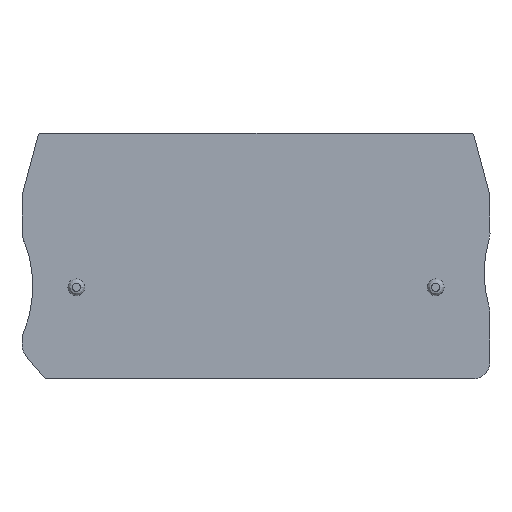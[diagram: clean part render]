
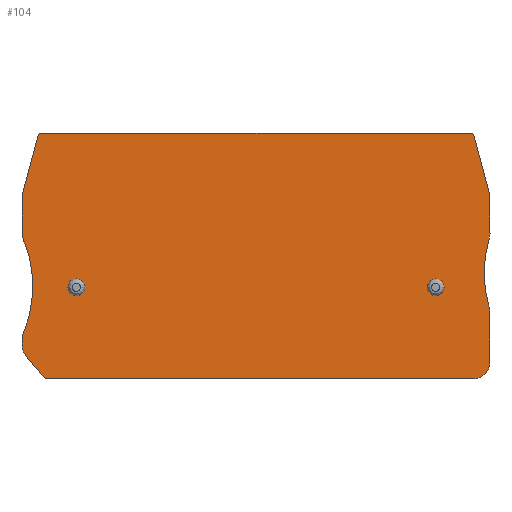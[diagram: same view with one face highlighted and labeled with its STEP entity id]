
A CAD part, top view. The second image highlights one B-rep face of the part: STEP entity #104.
In plain terms, the highlighted planar face has unit normal (0, 0, 1).
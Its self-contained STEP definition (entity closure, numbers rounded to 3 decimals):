
#36=FACE_BOUND('',#166,.T.);
#37=FACE_BOUND('',#167,.T.);
#38=FACE_BOUND('',#168,.T.);
#60=CIRCLE('',#490,0.5);
#62=CIRCLE('',#495,2.);
#64=CIRCLE('',#498,14.5);
#66=CIRCLE('',#501,2.);
#68=CIRCLE('',#505,2.);
#70=CIRCLE('',#510,2.);
#72=CIRCLE('',#514,2.);
#74=CIRCLE('',#517,14.5);
#76=CIRCLE('',#520,2.);
#78=CIRCLE('',#525,0.5);
#79=CIRCLE('',#527,1.);
#80=CIRCLE('',#528,1.);
#104=ADVANCED_FACE('',(#36,#37,#38),#121,.T.);
#121=PLANE('',#529);
#166=EDGE_LOOP('',(#256,#257,#258,#259,#260,#261,#262,#263,#264,#265,#266,
#267,#268,#269,#270,#271,#272,#273,#274));
#167=EDGE_LOOP('',(#275));
#168=EDGE_LOOP('',(#276));
#256=ORIENTED_EDGE('',*,*,#352,.T.);
#257=ORIENTED_EDGE('',*,*,#356,.T.);
#258=ORIENTED_EDGE('',*,*,#359,.T.);
#259=ORIENTED_EDGE('',*,*,#362,.T.);
#260=ORIENTED_EDGE('',*,*,#365,.T.);
#261=ORIENTED_EDGE('',*,*,#368,.T.);
#262=ORIENTED_EDGE('',*,*,#371,.T.);
#263=ORIENTED_EDGE('',*,*,#374,.T.);
#264=ORIENTED_EDGE('',*,*,#377,.T.);
#265=ORIENTED_EDGE('',*,*,#380,.T.);
#266=ORIENTED_EDGE('',*,*,#383,.T.);
#267=ORIENTED_EDGE('',*,*,#386,.T.);
#268=ORIENTED_EDGE('',*,*,#389,.T.);
#269=ORIENTED_EDGE('',*,*,#392,.T.);
#270=ORIENTED_EDGE('',*,*,#395,.T.);
#271=ORIENTED_EDGE('',*,*,#398,.T.);
#272=ORIENTED_EDGE('',*,*,#401,.T.);
#273=ORIENTED_EDGE('',*,*,#404,.T.);
#274=ORIENTED_EDGE('',*,*,#406,.T.);
#275=ORIENTED_EDGE('',*,*,#407,.F.);
#276=ORIENTED_EDGE('',*,*,#408,.F.);
#308=VERTEX_POINT('',#685);
#309=VERTEX_POINT('',#687);
#311=VERTEX_POINT('',#693);
#313=VERTEX_POINT('',#699);
#315=VERTEX_POINT('',#705);
#317=VERTEX_POINT('',#711);
#319=VERTEX_POINT('',#717);
#321=VERTEX_POINT('',#723);
#323=VERTEX_POINT('',#729);
#325=VERTEX_POINT('',#735);
#327=VERTEX_POINT('',#741);
#329=VERTEX_POINT('',#747);
#331=VERTEX_POINT('',#753);
#333=VERTEX_POINT('',#759);
#335=VERTEX_POINT('',#765);
#337=VERTEX_POINT('',#771);
#339=VERTEX_POINT('',#777);
#341=VERTEX_POINT('',#783);
#343=VERTEX_POINT('',#789);
#344=VERTEX_POINT('',#796);
#345=VERTEX_POINT('',#798);
#352=EDGE_CURVE('',#309,#308,#415,.T.);
#356=EDGE_CURVE('',#308,#311,#60,.T.);
#359=EDGE_CURVE('',#311,#313,#420,.T.);
#362=EDGE_CURVE('',#313,#315,#423,.T.);
#365=EDGE_CURVE('',#315,#317,#62,.T.);
#368=EDGE_CURVE('',#317,#319,#64,.T.);
#371=EDGE_CURVE('',#319,#321,#66,.T.);
#374=EDGE_CURVE('',#321,#323,#429,.T.);
#377=EDGE_CURVE('',#323,#325,#68,.T.);
#380=EDGE_CURVE('',#325,#327,#433,.T.);
#383=EDGE_CURVE('',#327,#329,#436,.T.);
#386=EDGE_CURVE('',#329,#331,#70,.T.);
#389=EDGE_CURVE('',#331,#333,#440,.T.);
#392=EDGE_CURVE('',#333,#335,#72,.T.);
#395=EDGE_CURVE('',#335,#337,#74,.T.);
#398=EDGE_CURVE('',#337,#339,#76,.T.);
#401=EDGE_CURVE('',#339,#341,#446,.T.);
#404=EDGE_CURVE('',#341,#343,#449,.T.);
#406=EDGE_CURVE('',#343,#309,#78,.T.);
#407=EDGE_CURVE('',#344,#344,#79,.T.);
#408=EDGE_CURVE('',#345,#345,#80,.T.);
#415=LINE('',#686,#452);
#420=LINE('',#700,#457);
#423=LINE('',#706,#460);
#429=LINE('',#730,#466);
#433=LINE('',#742,#470);
#436=LINE('',#748,#473);
#440=LINE('',#760,#477);
#446=LINE('',#784,#483);
#449=LINE('',#790,#486);
#452=VECTOR('',#543,1.);
#457=VECTOR('',#556,1.);
#460=VECTOR('',#561,1.);
#466=VECTOR('',#587,1.);
#470=VECTOR('',#599,1.);
#473=VECTOR('',#604,1.);
#477=VECTOR('',#616,1.);
#483=VECTOR('',#642,1.);
#486=VECTOR('',#647,1.);
#490=AXIS2_PLACEMENT_3D('',#694,#550,#551);
#495=AXIS2_PLACEMENT_3D('',#712,#567,#568);
#498=AXIS2_PLACEMENT_3D('',#718,#574,#575);
#501=AXIS2_PLACEMENT_3D('',#724,#581,#582);
#505=AXIS2_PLACEMENT_3D('',#736,#593,#594);
#510=AXIS2_PLACEMENT_3D('',#754,#610,#611);
#514=AXIS2_PLACEMENT_3D('',#766,#622,#623);
#517=AXIS2_PLACEMENT_3D('',#772,#629,#630);
#520=AXIS2_PLACEMENT_3D('',#778,#636,#637);
#525=AXIS2_PLACEMENT_3D('',#793,#652,#653);
#527=AXIS2_PLACEMENT_3D('',#795,#656,#657);
#528=AXIS2_PLACEMENT_3D('',#797,#658,#659);
#529=AXIS2_PLACEMENT_3D('',#799,#660,#661);
#543=DIRECTION('',(-1.,0.,0.));
#550=DIRECTION('',(0.,0.,1.));
#551=DIRECTION('',(1.,0.,0.));
#556=DIRECTION('',(-0.259,-0.966,0.));
#561=DIRECTION('',(0.,-1.,0.));
#567=DIRECTION('',(0.,0.,1.));
#568=DIRECTION('',(1.,0.,0.));
#574=DIRECTION('',(0.,0.,-1.));
#575=DIRECTION('',(1.,0.,0.));
#581=DIRECTION('',(0.,0.,1.));
#582=DIRECTION('',(1.,0.,0.));
#587=DIRECTION('',(0.,-1.,0.));
#593=DIRECTION('',(0.,0.,1.));
#594=DIRECTION('',(1.,0.,0.));
#599=DIRECTION('',(0.643,-0.766,0.));
#604=DIRECTION('',(1.,0.,0.));
#610=DIRECTION('',(0.,0.,1.));
#611=DIRECTION('',(1.,0.,0.));
#616=DIRECTION('',(0.,1.,0.));
#622=DIRECTION('',(0.,0.,1.));
#623=DIRECTION('',(1.,0.,0.));
#629=DIRECTION('',(0.,0.,-1.));
#630=DIRECTION('',(1.,0.,0.));
#636=DIRECTION('',(0.,0.,1.));
#637=DIRECTION('',(1.,0.,0.));
#642=DIRECTION('',(0.,1.,0.));
#647=DIRECTION('',(-0.259,0.966,0.));
#652=DIRECTION('',(0.,0.,1.));
#653=DIRECTION('',(1.,0.,0.));
#656=DIRECTION('',(0.,0.,1.));
#657=DIRECTION('',(1.,0.,0.));
#658=DIRECTION('',(0.,0.,1.));
#659=DIRECTION('',(1.,0.,0.));
#660=DIRECTION('',(0.,0.,1.));
#661=DIRECTION('',(1.,0.,0.));
#685=CARTESIAN_POINT('',(4.642,33.254,2.2));
#686=CARTESIAN_POINT('',(55.875,33.254,2.2));
#687=CARTESIAN_POINT('',(55.875,33.254,2.2));
#693=CARTESIAN_POINT('',(4.159,32.883,2.2));
#694=CARTESIAN_POINT('',(4.642,32.754,2.2));
#699=CARTESIAN_POINT('',(2.259,25.789,2.2));
#700=CARTESIAN_POINT('',(4.159,32.883,2.2));
#705=CARTESIAN_POINT('',(2.259,21.372,2.2));
#706=CARTESIAN_POINT('',(2.259,25.789,2.2));
#711=CARTESIAN_POINT('',(2.416,20.594,2.2));
#712=CARTESIAN_POINT('',(4.259,21.372,2.2));
#717=CARTESIAN_POINT('',(2.416,9.311,2.2));
#718=CARTESIAN_POINT('',(-10.941,14.953,2.2));
#723=CARTESIAN_POINT('',(2.259,8.533,2.2));
#724=CARTESIAN_POINT('',(4.259,8.533,2.2));
#729=CARTESIAN_POINT('',(2.259,7.881,2.2));
#730=CARTESIAN_POINT('',(2.259,8.533,2.2));
#735=CARTESIAN_POINT('',(2.727,6.596,2.2));
#736=CARTESIAN_POINT('',(4.259,7.881,2.2));
#741=CARTESIAN_POINT('',(5.028,3.854,2.2));
#742=CARTESIAN_POINT('',(2.727,6.596,2.2));
#747=CARTESIAN_POINT('',(56.259,3.854,2.2));
#748=CARTESIAN_POINT('',(5.028,3.854,2.2));
#753=CARTESIAN_POINT('',(58.259,5.854,2.2));
#754=CARTESIAN_POINT('',(56.259,5.854,2.2));
#759=CARTESIAN_POINT('',(58.259,11.748,2.2));
#760=CARTESIAN_POINT('',(58.259,5.854,2.2));
#765=CARTESIAN_POINT('',(58.174,12.324,2.2));
#766=CARTESIAN_POINT('',(56.259,11.748,2.2));
#771=CARTESIAN_POINT('',(58.174,20.681,2.2));
#772=CARTESIAN_POINT('',(72.059,16.503,2.2));
#777=CARTESIAN_POINT('',(58.259,21.258,2.2));
#778=CARTESIAN_POINT('',(56.259,21.258,2.2));
#783=CARTESIAN_POINT('',(58.259,25.789,2.2));
#784=CARTESIAN_POINT('',(58.259,21.258,2.2));
#789=CARTESIAN_POINT('',(56.358,32.883,2.2));
#790=CARTESIAN_POINT('',(58.259,25.789,2.2));
#793=CARTESIAN_POINT('',(55.875,32.754,2.2));
#795=CARTESIAN_POINT('',(8.759,14.804,2.2));
#796=CARTESIAN_POINT('',(9.759,14.804,2.2));
#797=CARTESIAN_POINT('',(51.759,14.804,2.2));
#798=CARTESIAN_POINT('',(52.759,14.804,2.2));
#799=CARTESIAN_POINT('',(4.642,32.754,2.2));
